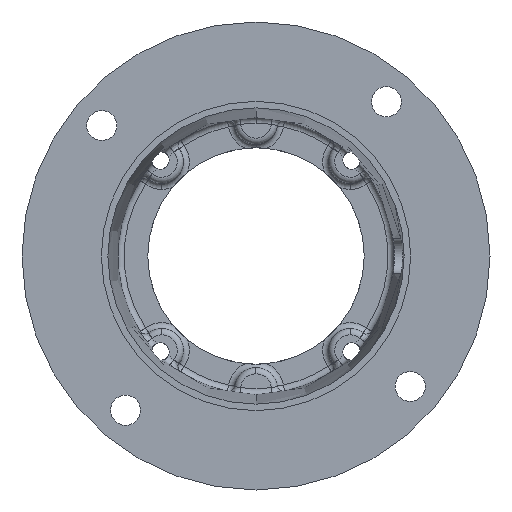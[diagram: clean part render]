
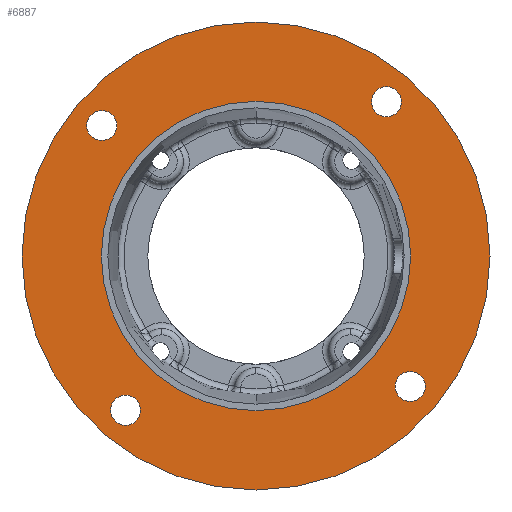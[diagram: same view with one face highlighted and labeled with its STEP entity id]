
A CAD part, front view. The second image highlights one B-rep face of the part: STEP entity #6887.
In plain terms, the highlighted planar face has unit normal (0, -1, 0).
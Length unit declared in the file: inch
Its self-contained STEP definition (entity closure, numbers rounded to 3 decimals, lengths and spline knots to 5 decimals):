
#138 = AXIS2_PLACEMENT_3D ( 'NONE', #3156, #7345, #3755 ) ;
#227 = EDGE_CURVE ( 'NONE', #3302, #389, #3139, .T. ) ;
#270 = DIRECTION ( 'NONE',  ( 0., 0., -1. ) ) ;
#389 = VERTEX_POINT ( 'NONE', #7770 ) ;
#400 = CARTESIAN_POINT ( 'NONE',  ( -1.89861, 0.168, -2.026 ) ) ;
#409 = CARTESIAN_POINT ( 'NONE',  ( 0., 0.168, 0. ) ) ;
#450 = AXIS2_PLACEMENT_3D ( 'NONE', #1044, #5221, #1658 ) ;
#541 = CARTESIAN_POINT ( 'NONE',  ( 0., 0.168, 0. ) ) ;
#552 = ORIENTED_EDGE ( 'NONE', *, *, #5801, .T. ) ;
#581 = EDGE_CURVE ( 'NONE', #7445, #5071, #6959, .T. ) ;
#601 = CARTESIAN_POINT ( 'NONE',  ( 0., 0.168, 2.2505 ) ) ;
#845 = CIRCLE ( 'NONE', #1994, 0.21875 ) ;
#993 = DIRECTION ( 'NONE',  ( 0., -1., 0. ) ) ;
#1029 = DIRECTION ( 'NONE',  ( 0., 0., -1. ) ) ;
#1044 = CARTESIAN_POINT ( 'NONE',  ( 2.24475, 0.168, -1.89861 ) ) ;
#1058 = CIRCLE ( 'NONE', #2294, 2.2505 ) ;
#1174 = DIRECTION ( 'NONE',  ( 0., 0., -1. ) ) ;
#1294 = DIRECTION ( 'NONE',  ( 0., -1., 0. ) ) ;
#1398 = AXIS2_PLACEMENT_3D ( 'NONE', #4578, #993, #5171 ) ;
#1451 = FACE_BOUND ( 'NONE', #5238, .T. ) ;
#1527 = AXIS2_PLACEMENT_3D ( 'NONE', #2115, #6290, #2709 ) ;
#1572 = CARTESIAN_POINT ( 'NONE',  ( 0., 0.168, -3.405 ) ) ;
#1628 = VERTEX_POINT ( 'NONE', #1572 ) ;
#1658 = DIRECTION ( 'NONE',  ( 0., 0., -1. ) ) ;
#1965 = EDGE_CURVE ( 'NONE', #5071, #7445, #4879, .T. ) ;
#1994 = AXIS2_PLACEMENT_3D ( 'NONE', #6749, #3171, #7368 ) ;
#2015 = ORIENTED_EDGE ( 'NONE', *, *, #7471, .F. ) ;
#2018 = CARTESIAN_POINT ( 'NONE',  ( -1.89861, 0.168, -2.24475 ) ) ;
#2032 = CARTESIAN_POINT ( 'NONE',  ( -2.24475, 0.168, 1.67986 ) ) ;
#2068 = AXIS2_PLACEMENT_3D ( 'NONE', #7151, #3566, #7762 ) ;
#2098 = VERTEX_POINT ( 'NONE', #6654 ) ;
#2115 = CARTESIAN_POINT ( 'NONE',  ( -2.24475, 0.168, 1.89861 ) ) ;
#2294 = AXIS2_PLACEMENT_3D ( 'NONE', #7474, #3885, #270 ) ;
#2481 = EDGE_LOOP ( 'NONE', ( #3384, #3497 ) ) ;
#2505 = AXIS2_PLACEMENT_3D ( 'NONE', #409, #4621, #1029 ) ;
#2549 = EDGE_CURVE ( 'NONE', #6670, #2098, #845, .T. ) ;
#2609 = DIRECTION ( 'NONE',  ( 0., 0., -1. ) ) ;
#2622 = VERTEX_POINT ( 'NONE', #2032 ) ;
#2661 = CIRCLE ( 'NONE', #3922, 3.405 ) ;
#2709 = DIRECTION ( 'NONE',  ( 0., 0., -1. ) ) ;
#2719 = CARTESIAN_POINT ( 'NONE',  ( -2.24475, 0.168, 1.89861 ) ) ;
#2771 = ORIENTED_EDGE ( 'NONE', *, *, #5047, .T. ) ;
#2823 = CARTESIAN_POINT ( 'NONE',  ( -2.24475, 0.168, 2.11736 ) ) ;
#2927 = CARTESIAN_POINT ( 'NONE',  ( 1.89861, 0.168, 2.4635 ) ) ;
#3038 = FACE_BOUND ( 'NONE', #4501, .T. ) ;
#3139 = CIRCLE ( 'NONE', #138, 2.2505 ) ;
#3156 = CARTESIAN_POINT ( 'NONE',  ( 0., 0.168, 0. ) ) ;
#3171 = DIRECTION ( 'NONE',  ( 0., -1., 0. ) ) ;
#3234 = FACE_BOUND ( 'NONE', #2481, .T. ) ;
#3244 = ORIENTED_EDGE ( 'NONE', *, *, #1965, .F. ) ;
#3253 = CARTESIAN_POINT ( 'NONE',  ( 1.89861, 0.168, 2.24475 ) ) ;
#3302 = VERTEX_POINT ( 'NONE', #601 ) ;
#3328 = DIRECTION ( 'NONE',  ( 0., 0., -1. ) ) ;
#3384 = ORIENTED_EDGE ( 'NONE', *, *, #5608, .F. ) ;
#3497 = ORIENTED_EDGE ( 'NONE', *, *, #6608, .F. ) ;
#3558 = ORIENTED_EDGE ( 'NONE', *, *, #4203, .F. ) ;
#3566 = DIRECTION ( 'NONE',  ( 0., -1., 0. ) ) ;
#3588 = ORIENTED_EDGE ( 'NONE', *, *, #4943, .F. ) ;
#3658 = EDGE_CURVE ( 'NONE', #5163, #6327, #6306, .T. ) ;
#3659 = CARTESIAN_POINT ( 'NONE',  ( 0., 0.168, 0. ) ) ;
#3746 = CIRCLE ( 'NONE', #2505, 3.405 ) ;
#3755 = DIRECTION ( 'NONE',  ( 0., 0., -1. ) ) ;
#3842 = DIRECTION ( 'NONE',  ( 0., 0., -1. ) ) ;
#3853 = EDGE_LOOP ( 'NONE', ( #2771, #552 ) ) ;
#3885 = DIRECTION ( 'NONE',  ( 0., -1., 0. ) ) ;
#3922 = AXIS2_PLACEMENT_3D ( 'NONE', #541, #4742, #1174 ) ;
#4016 = CARTESIAN_POINT ( 'NONE',  ( -1.89861, 0.168, -2.4635 ) ) ;
#4117 = ORIENTED_EDGE ( 'NONE', *, *, #227, .F. ) ;
#4149 = ORIENTED_EDGE ( 'NONE', *, *, #2549, .F. ) ;
#4203 = EDGE_CURVE ( 'NONE', #389, #3302, #1058, .T. ) ;
#4365 = ORIENTED_EDGE ( 'NONE', *, *, #581, .F. ) ;
#4501 = EDGE_LOOP ( 'NONE', ( #3588, #5643 ) ) ;
#4545 = CIRCLE ( 'NONE', #4670, 0.21875 ) ;
#4578 = CARTESIAN_POINT ( 'NONE',  ( 1.89861, 0.168, 2.24475 ) ) ;
#4604 = CARTESIAN_POINT ( 'NONE',  ( 1.89861, 0.168, 2.026 ) ) ;
#4621 = DIRECTION ( 'NONE',  ( 0., -1., 0. ) ) ;
#4670 = AXIS2_PLACEMENT_3D ( 'NONE', #2719, #6906, #3328 ) ;
#4742 = DIRECTION ( 'NONE',  ( 0., -1., 0. ) ) ;
#4774 = CIRCLE ( 'NONE', #450, 0.21875 ) ;
#4879 = CIRCLE ( 'NONE', #2068, 0.21875 ) ;
#4943 = EDGE_CURVE ( 'NONE', #6327, #5163, #7305, .T. ) ;
#5047 = EDGE_CURVE ( 'NONE', #1628, #7625, #3746, .T. ) ;
#5071 = VERTEX_POINT ( 'NONE', #4016 ) ;
#5163 = VERTEX_POINT ( 'NONE', #2927 ) ;
#5171 = DIRECTION ( 'NONE',  ( 0., 0., -1. ) ) ;
#5221 = DIRECTION ( 'NONE',  ( 0., -1., 0. ) ) ;
#5238 = EDGE_LOOP ( 'NONE', ( #3244, #4365 ) ) ;
#5469 = DIRECTION ( 'NONE',  ( 0., 0., -1. ) ) ;
#5608 = EDGE_CURVE ( 'NONE', #2622, #6702, #7662, .T. ) ;
#5643 = ORIENTED_EDGE ( 'NONE', *, *, #3658, .F. ) ;
#5801 = EDGE_CURVE ( 'NONE', #7625, #1628, #2661, .T. ) ;
#5906 = EDGE_LOOP ( 'NONE', ( #3558, #4117 ) ) ;
#6029 = CARTESIAN_POINT ( 'NONE',  ( 0., 0.168, 3.405 ) ) ;
#6040 = FACE_OUTER_BOUND ( 'NONE', #3853, .T. ) ;
#6187 = DIRECTION ( 'NONE',  ( 0., -1., 0. ) ) ;
#6221 = FACE_BOUND ( 'NONE', #6271, .T. ) ;
#6250 = AXIS2_PLACEMENT_3D ( 'NONE', #3253, #7436, #3842 ) ;
#6271 = EDGE_LOOP ( 'NONE', ( #2015, #4149 ) ) ;
#6290 = DIRECTION ( 'NONE',  ( 0., -1., 0. ) ) ;
#6306 = CIRCLE ( 'NONE', #1398, 0.21875 ) ;
#6327 = VERTEX_POINT ( 'NONE', #4604 ) ;
#6608 = EDGE_CURVE ( 'NONE', #6702, #2622, #4545, .T. ) ;
#6654 = CARTESIAN_POINT ( 'NONE',  ( 2.24475, 0.168, -2.11736 ) ) ;
#6670 = VERTEX_POINT ( 'NONE', #7586 ) ;
#6702 = VERTEX_POINT ( 'NONE', #2823 ) ;
#6749 = CARTESIAN_POINT ( 'NONE',  ( 2.24475, 0.168, -1.89861 ) ) ;
#6887 = ADVANCED_FACE ( 'NONE', ( #3038, #3234, #6221, #1451, #7624, #6040 ), #7219, .T. ) ;
#6906 = DIRECTION ( 'NONE',  ( 0., -1., 0. ) ) ;
#6937 = AXIS2_PLACEMENT_3D ( 'NONE', #3659, #1294, #5469 ) ;
#6959 = CIRCLE ( 'NONE', #6970, 0.21875 ) ;
#6970 = AXIS2_PLACEMENT_3D ( 'NONE', #2018, #6187, #2609 ) ;
#7151 = CARTESIAN_POINT ( 'NONE',  ( -1.89861, 0.168, -2.24475 ) ) ;
#7219 = PLANE ( 'NONE',  #6937 ) ;
#7305 = CIRCLE ( 'NONE', #6250, 0.21875 ) ;
#7345 = DIRECTION ( 'NONE',  ( 0., -1., 0. ) ) ;
#7368 = DIRECTION ( 'NONE',  ( 0., 0., -1. ) ) ;
#7436 = DIRECTION ( 'NONE',  ( 0., -1., 0. ) ) ;
#7445 = VERTEX_POINT ( 'NONE', #400 ) ;
#7471 = EDGE_CURVE ( 'NONE', #2098, #6670, #4774, .T. ) ;
#7474 = CARTESIAN_POINT ( 'NONE',  ( 0., 0.168, 0. ) ) ;
#7586 = CARTESIAN_POINT ( 'NONE',  ( 2.24475, 0.168, -1.67986 ) ) ;
#7624 = FACE_BOUND ( 'NONE', #5906, .T. ) ;
#7625 = VERTEX_POINT ( 'NONE', #6029 ) ;
#7662 = CIRCLE ( 'NONE', #1527, 0.21875 ) ;
#7762 = DIRECTION ( 'NONE',  ( 0., 0., -1. ) ) ;
#7770 = CARTESIAN_POINT ( 'NONE',  ( 0., 0.168, -2.2505 ) ) ;
